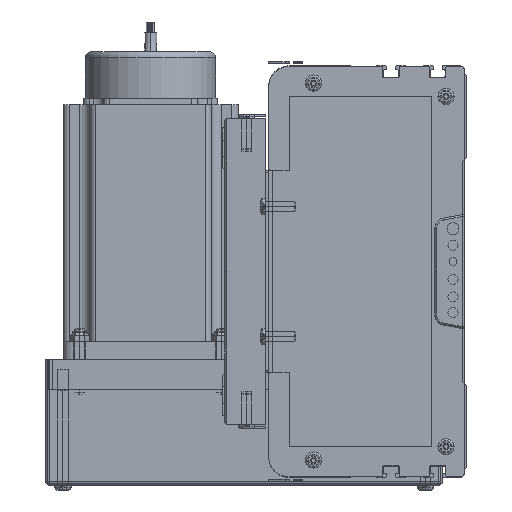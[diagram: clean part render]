
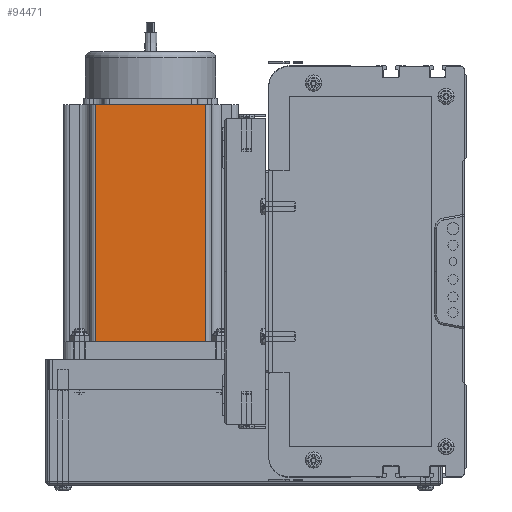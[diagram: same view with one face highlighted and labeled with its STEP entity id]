
A CAD part, left-side view. The second image highlights one B-rep face of the part: STEP entity #94471.
In plain terms, the highlighted planar face has unit normal (-1, 0, 0) as drawn and (0, -1, 0) by its records, which use the part's own axes.
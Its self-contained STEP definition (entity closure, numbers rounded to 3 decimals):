
#75550 = CARTESIAN_POINT ( 'NONE',  ( 69.74, 0., 116.5 ) ) ;
#75568 = LINE ( 'NONE', #75698, #75697 ) ;
#75580 = CARTESIAN_POINT ( 'NONE',  ( 69.74, 0., 0. ) ) ;
#75582 = CARTESIAN_POINT ( 'NONE',  ( 16.16, 0., 116.5 ) ) ;
#75600 = VECTOR ( 'NONE', #75604, 1000. ) ;
#75604 = DIRECTION ( 'NONE',  ( 0., 0., -1. ) ) ;
#75605 = CARTESIAN_POINT ( 'NONE',  ( 16.16, 0., 116.5 ) ) ;
#75620 = LINE ( 'NONE', #75605, #75600 ) ;
#75647 = DIRECTION ( 'NONE',  ( 0., 0., 1. ) ) ;
#75655 = AXIS2_PLACEMENT_3D ( 'NONE', #75681, #75661, #75647 ) ;
#75661 = DIRECTION ( 'NONE',  ( 0., 1., 0. ) ) ;
#75663 = FACE_OUTER_BOUND ( 'NONE', #94548, .T. ) ;
#75678 = CARTESIAN_POINT ( 'NONE',  ( 16.16, 0., 0. ) ) ;
#75681 = CARTESIAN_POINT ( 'NONE',  ( 0., 0., 116.5 ) ) ;
#75691 = PLANE ( 'NONE',  #75655 ) ;
#75694 = DIRECTION ( 'NONE',  ( 1., 0., 0. ) ) ;
#75697 = VECTOR ( 'NONE', #75694, 1000. ) ;
#75698 = CARTESIAN_POINT ( 'NONE',  ( 0., 0., 116.5 ) ) ;
#75779 = VECTOR ( 'NONE', #75915, 1000. ) ;
#75781 = CARTESIAN_POINT ( 'NONE',  ( 69.74, 0., 116.5 ) ) ;
#75782 = LINE ( 'NONE', #75781, #75779 ) ;
#75915 = DIRECTION ( 'NONE',  ( 0., 0., 1. ) ) ;
#76140 = DIRECTION ( 'NONE',  ( 1., 0., 0. ) ) ;
#76142 = VECTOR ( 'NONE', #76140, 1000. ) ;
#76143 = CARTESIAN_POINT ( 'NONE',  ( 0., 0., 0. ) ) ;
#76144 = LINE ( 'NONE', #76143, #76142 ) ;
#94276 = ORIENTED_EDGE ( 'NONE', *, *, #94657, .T. ) ;
#94370 = VERTEX_POINT ( 'NONE', #75550 ) ;
#94409 = ORIENTED_EDGE ( 'NONE', *, *, #94443, .F. ) ;
#94414 = EDGE_CURVE ( 'NONE', #94445, #94464, #75620, .T. ) ;
#94421 = VERTEX_POINT ( 'NONE', #75580 ) ;
#94443 = EDGE_CURVE ( 'NONE', #94445, #94370, #75568, .T. ) ;
#94445 = VERTEX_POINT ( 'NONE', #75582 ) ;
#94464 = VERTEX_POINT ( 'NONE', #75678 ) ;
#94471 = ADVANCED_FACE ( 'NONE', ( #75663 ), #75691, .F. ) ;
#94473 = ORIENTED_EDGE ( 'NONE', *, *, #94544, .T. ) ;
#94544 = EDGE_CURVE ( 'NONE', #94421, #94370, #75782, .T. ) ;
#94545 = ORIENTED_EDGE ( 'NONE', *, *, #94414, .T. ) ;
#94548 = EDGE_LOOP ( 'NONE', ( #94276, #94473, #94409, #94545 ) ) ;
#94657 = EDGE_CURVE ( 'NONE', #94464, #94421, #76144, .T. ) ;
